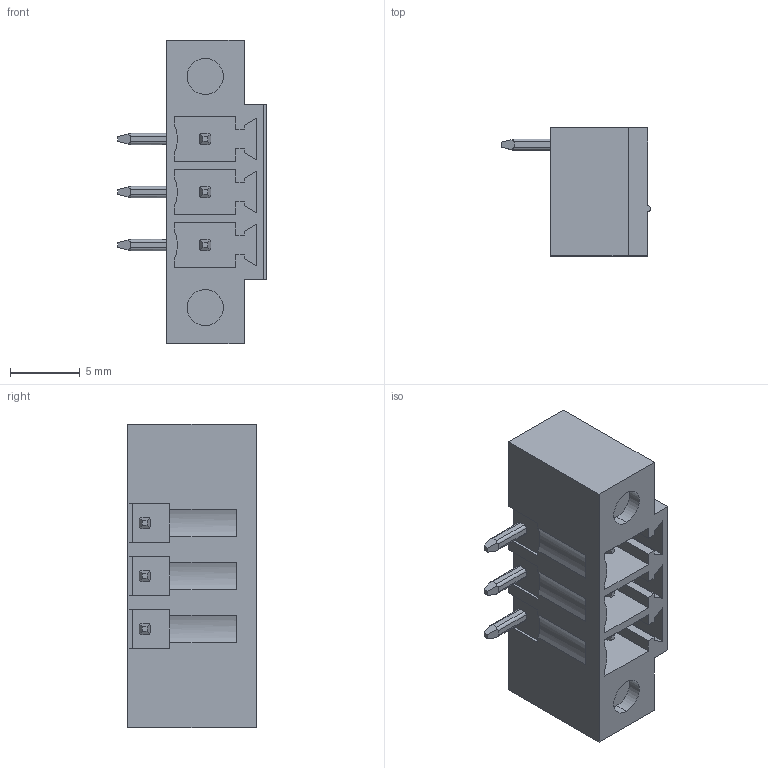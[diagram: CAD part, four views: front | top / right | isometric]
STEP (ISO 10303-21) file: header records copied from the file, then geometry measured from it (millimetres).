
FILE_DESCRIPTION((''),'2;1');
FILE_NAME('3','2019-04-08T',('zhenbing.lai'),(''),'CREO PARAMETRIC BY PTC INC, 2016260','CREO PARAMETRIC BY PTC INC, 2016260','');
FILE_SCHEMA(('CONFIG_CONTROL_DESIGN'));
Length unit declared in the file: millimetre
Products named in the file (1): 3
Bounding box: 10.7 x 9.2 x 21.82 mm (x, y, z)
Volume: 922.6 mm3; surface area: 1315.3 mm2
Topology: 1 solids, 1 shells, 182 faces, 500 edges, 333 vertices
Faces by surface type: plane 147, cylinder 35
Entity records: 5874 total; most frequent: CARTESIAN_POINT 1240, ORIENTED_EDGE 1000, DIRECTION 867, EDGE_CURVE 500, VECTOR 401, LINE 401, VERTEX_POINT 333, AXIS2_PLACEMENT_3D 233
